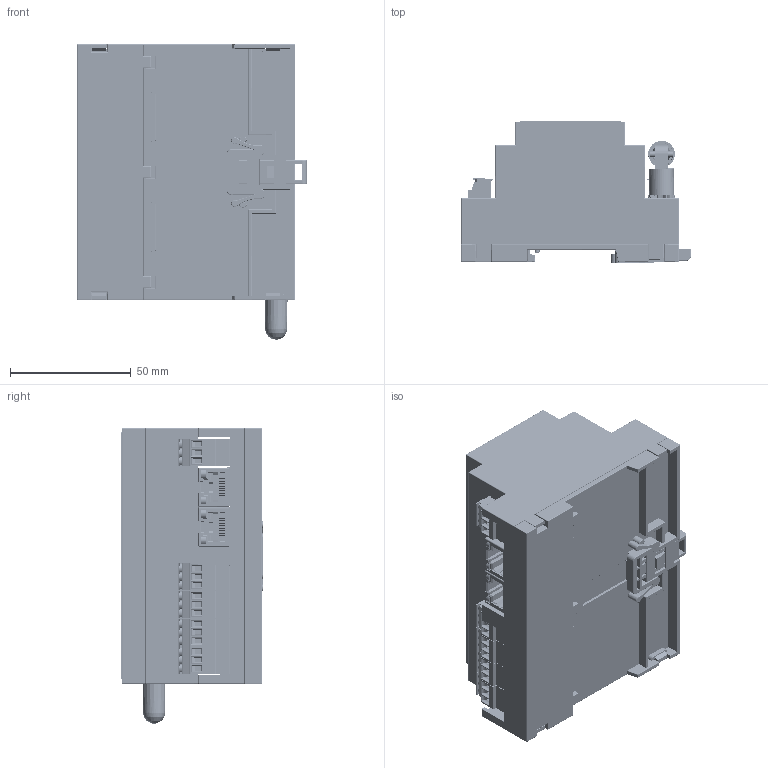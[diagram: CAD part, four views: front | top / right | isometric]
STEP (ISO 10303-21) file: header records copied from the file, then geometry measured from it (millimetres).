
FILE_DESCRIPTION(('STEP AP242'), '1');
FILE_NAME('WB8', '', ('UNSPECIFIED'), ('UNSPECIFIED'), 'C3D Converter', 'C3D Toolkit', '');
FILE_SCHEMA(('AP242_MANAGED_MODEL_BASED_3D_ENGINEERING_MIM_LF { 1 0 10303 442 1 1 4 }'));
Length unit declared in the file: millimetre
Products named in the file (43): D4MG; D6MG корпус:1; D6MG крепёж:1; D6MG крышка:1; D6MG основание:1; xb-sua-110v2_1; A0-9062-000TK; NAUO1; NAUO2; NAUO3; antenna_WiFi_RP-SMA_conn; ant:1; conn_body:1; SMA_threads:1; socket:1; Admi07704AC6ofqw; Admi094CE9558fvc; MANIFOLD_SOLID_BREP #13285; Admi07704AC6ofqq; Admi094CE9558fv6; -01; -02; -03; -04; -05
Assembly tree (66 placements, depth 3):
  (unnamed)
    D4MG
      D6MG корпус:1
      D6MG крепёж:1
      D6MG крышка:1
      D6MG основание:1
    (unnamed)
      xb-sua-110v2_1
      xb-sua-110v2_1
      xb-sua-110v2_1
      xb-sua-110v2_1
      xb-sua-110v2_1
      xb-sua-110v2_1
    (unnamed)
    A0-9062-000TK
      NAUO1
      NAUO2
      NAUO3
    (unnamed)
    antenna_WiFi_RP-SMA_conn
      ant:1
      conn_body:1
      SMA_threads:1
      socket:1
    Admi07704AC6ofqw  x4
    Admi094CE9558fvc  x4
    MANIFOLD_SOLID_BREP #13285  x2
    Admi07704AC6ofqq  x5
    Admi094CE9558fv6  x5
    (unnamed)  x2
    -01
    -02
    -03
    -04
    -05  x2
    -01  x4
    -02  x4
    -03  x2
    (unnamed)
    (unnamed)
    (unnamed)
    -01
    NAUO2
Bounding box: 95.2 x 59 x 122.51 mm (x, y, z)
Volume: 109942.9 mm3; surface area: 147722.4 mm2
Topology: 292 solids, 293 shells, 21893 faces, 59941 edges, 39293 vertices
Faces by surface type: plane 13548, extrusion 4682, cylinder 2277, torus 459, cone 383, bspline 354, sphere 190
Full cylindrical faces by diameter (mm): 0.4 x7, 0.56 x2, 0.6 x2, 0.91 x1, 1.1 x2, 1.2 x31, 1.27 x2, 1.5 x4, 2.45 x2, 2.5 x2, 2.95 x31, 3.2 x2, 4 x1, 4.45 x1, 4.65 x1, 5 x1, 5.35 x2, 5.664 x1, 8 x2, 9.5 x1, 9.75 x1, 10.4 x1
Entity records: 559933 total; most frequent: CARTESIAN_POINT 158200, ORIENTED_EDGE 71516, DIRECTION 48279, EDGE_CURVE 35758, VECTOR 27331, VERTEX_POINT 23600, LINE 22822, B_SPLINE_CURVE_WITH_KNOTS 15012
